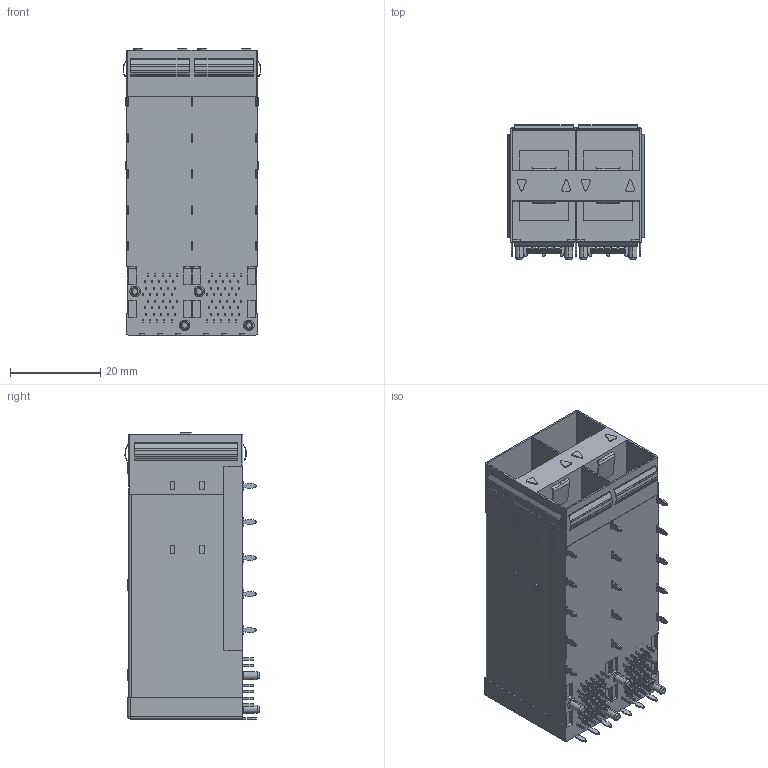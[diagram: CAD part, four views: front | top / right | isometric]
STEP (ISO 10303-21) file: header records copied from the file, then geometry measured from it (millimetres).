
FILE_DESCRIPTION (( 'STEP AP203' ), '1' );
FILE_NAME ('22203_SFP+ 2X2 俋絳嫖翐.STEP', '2024-06-05T00:26:13', ( '' ), ( '' ), 'SwSTEP 2.0', 'SolidWorks 2018', '' );
FILE_SCHEMA (( 'CONFIG_CONTROL_DESIGN' ));
Length unit declared in the file: millimetre
Products named in the file (1): 22203_SFP+ 2X2 俋絳嫖翐
Bounding box: 30.56 x 29.78 x 63.5 mm (x, y, z)
Volume: 23791.6 mm3; surface area: 19151.9 mm2
Topology: 1 solids, 1 shells, 1195 faces, 3345 edges, 2274 vertices
Faces by surface type: plane 869, cylinder 308, cone 16, sphere 2
Entity records: 38510 total; most frequent: CARTESIAN_POINT 6813, ORIENTED_EDGE 6686, DIRECTION 6371, EDGE_CURVE 3343, VECTOR 2707, LINE 2707, VERTEX_POINT 2274, AXIS2_PLACEMENT_3D 1832
